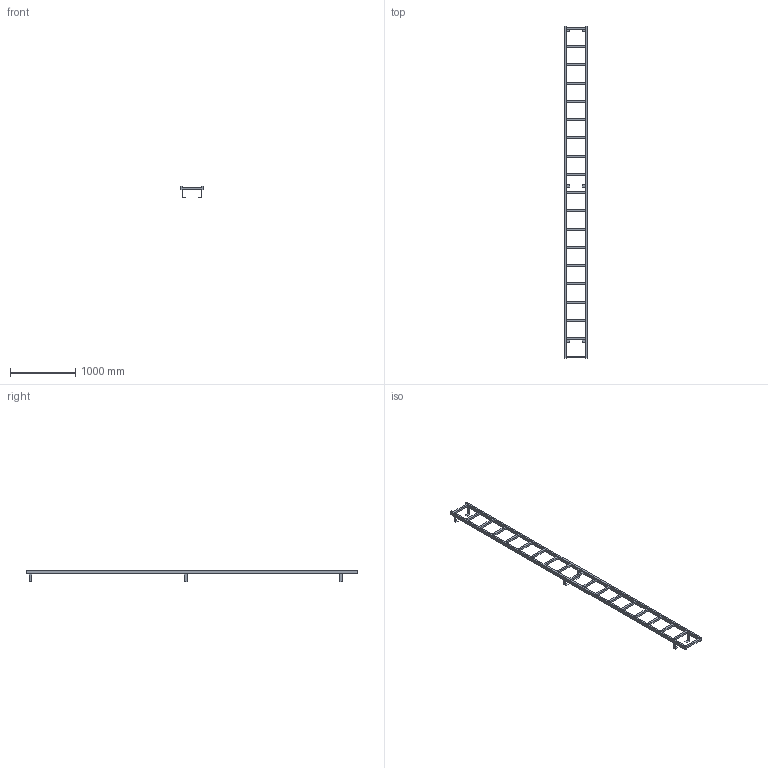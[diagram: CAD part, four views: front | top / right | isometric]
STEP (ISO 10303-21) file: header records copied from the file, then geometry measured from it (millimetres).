
FILE_DESCRIPTION((''),'2;1');
FILE_NAME('017_000109','2017-06-12T',('set'),('HUBER SE'),'PRO/ENGINEER BY PARAMETRIC TECHNOLOGY CORPORATION, 2015280','PRO/ENGINEER BY PARAMETRIC TECHNOLOGY CORPORATION, 2015280','');
FILE_SCHEMA(('CONFIG_CONTROL_DESIGN'));
Length unit declared in the file: millimetre
Products named in the file (1): 017_000109
Bounding box: 350 x 5090 x 178.5 mm (x, y, z)
Volume: 19733940 mm3; surface area: 2414372 mm2
Topology: 1 solids, 1 shells, 134 faces, 493 edges, 357 vertices
Faces by surface type: plane 134
Entity records: 5138 total; most frequent: CARTESIAN_POINT 1044, ORIENTED_EDGE 784, DIRECTION 754, VECTOR 446, LINE 446, EDGE_CURVE 392, VERTEX_POINT 256, EDGE_LOOP 166
